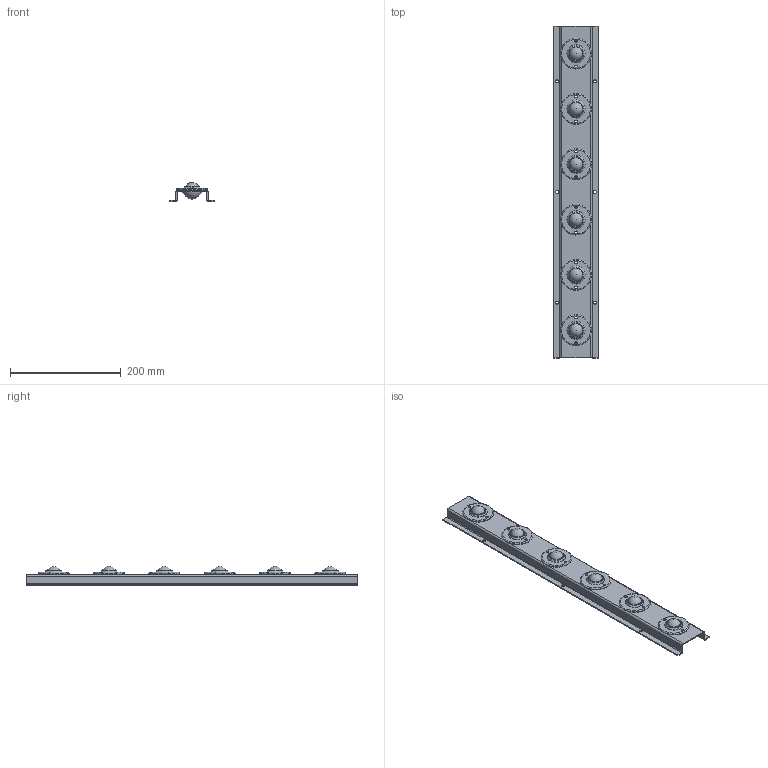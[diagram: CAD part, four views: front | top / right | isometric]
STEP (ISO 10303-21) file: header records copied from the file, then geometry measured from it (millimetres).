
FILE_DESCRIPTION(/* description */ (''),/* implementation_level */ '2;1');
FILE_NAME(/* name */ 'Z:\34-Tei\web 3Dデータ\IBU型\IBU-600-100.stp',/* time_stamp */ '2015-01-07T10:18:39+09:00',/* author */ ('yamaki'),/* organization */ (''),/* preprocessor_version */ 'ST-DEVELOPER v15.6',/* originating_system */ 'Autodesk Inventor 2015',/* authorisation */ '');
FILE_SCHEMA (('AUTOMOTIVE_DESIGN { 1 0 10303 214 3 1 1 }'));
Length unit declared in the file: millimetre
Products named in the file (3): B5A0BS; 3125AA; IBU-600-100
Bounding box: 80 x 600 x 34.6 mm (x, y, z)
Volume: 253188.9 mm3; surface area: 165215.4 mm2
Topology: 7 solids, 7 shells, 182 faces, 424 edges, 274 vertices
Faces by surface type: cylinder 68, plane 60, torus 30, sphere 18, cone 6
Full cylindrical faces by diameter (mm): 1.5 x6, 4.5 x24, 5.5 x6, 23.988 x6, 24.816 x6, 38 x6, 55.827 x6
Entity records: 2287 total; most frequent: DIRECTION 414, CARTESIAN_POINT 346, ORIENTED_EDGE 290, AXIS2_PLACEMENT_3D 177, EDGE_LOOP 176, EDGE_CURVE 145, VERTEX_POINT 109, FACE_BOUND 94
